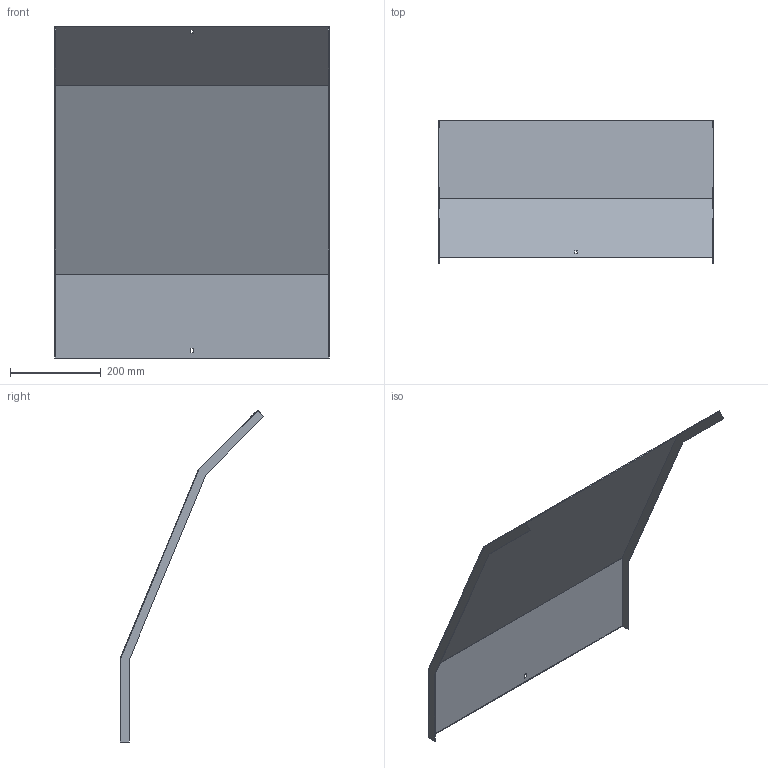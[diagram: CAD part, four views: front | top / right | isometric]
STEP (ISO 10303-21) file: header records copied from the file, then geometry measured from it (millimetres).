
FILE_DESCRIPTION (( 'STEP AP214' ), '1' );
FILE_NAME ('34N5F600.step', '2025-02-21T14:24:52', ( '' ), ( '' ), 'SwSTEP 2.0', 'SolidWorks 2023', '' );
FILE_SCHEMA (( 'AUTOMOTIVE_DESIGN' ));
Length unit declared in the file: millimetre
Products named in the file (1): 34N5F600
Bounding box: 603 x 316.43 x 729.78 mm (x, y, z)
Volume: 784006.5 mm3; surface area: 1049762.8 mm2
Topology: 1 solids, 1 shells, 26 faces, 72 edges, 48 vertices
Faces by surface type: plane 26
Entity records: 847 total; most frequent: CARTESIAN_POINT 147, ORIENTED_EDGE 144, DIRECTION 126, VECTOR 72, EDGE_CURVE 72, LINE 72, VERTEX_POINT 48, EDGE_LOOP 30
